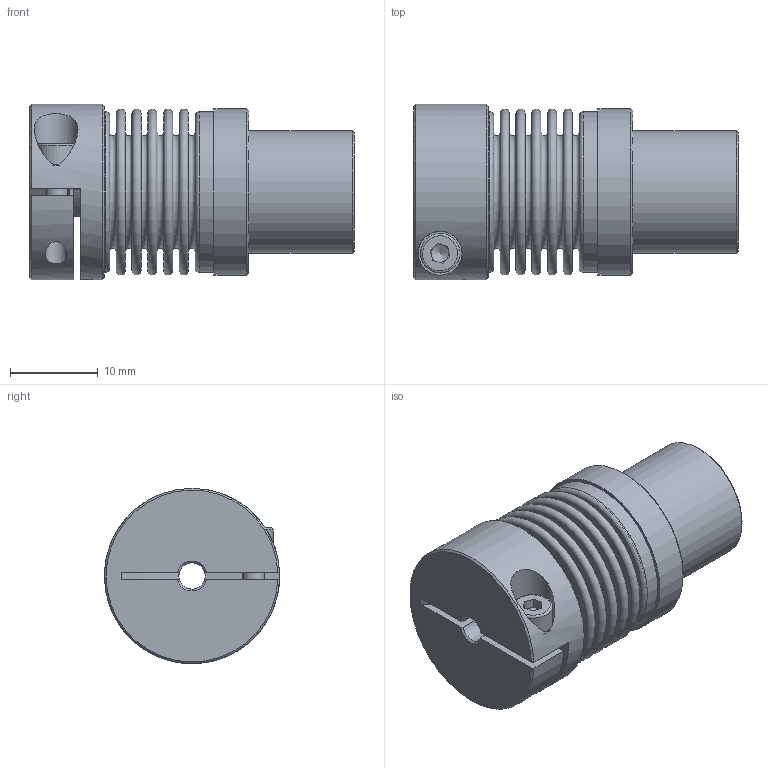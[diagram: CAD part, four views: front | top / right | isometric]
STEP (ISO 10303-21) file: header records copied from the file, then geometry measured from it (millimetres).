
FILE_DESCRIPTION( ( 'Unknown' ), '1' );
FILE_NAME( 'K:/Konstruktion/cad kunden/3D - Daten/KB3/KB3-15-25.stp', 'Unknown', ( 'Unknown' ), ( 'Unknown' ), 'PSStep 16.0.42', 'Unknown', ' ' );
FILE_SCHEMA( ( 'AUTOMOTIVE_DESIGN { 1 0 10303 214 1 1 1 1 }' ) );
Length unit declared in the file: millimetre
Products named in the file (5): Assem1; Socket Head Cap Screw_DIN_DIN 912 M2.5 x 8 --- 8N_1; KN15_Standard_1; BK15_Standard_0; SN15
Assembly tree (4 placements, depth 2):
  Assem1
    Socket Head Cap Screw_DIN_DIN 912 M2.5 x 8 --- 8N_1
    KN15_Standard_1
    BK15_Standard_0
    SN15
Bounding box: 37 x 20 x 20 mm (x, y, z)
Volume: 5928.8 mm3; surface area: 7992.8 mm2
Topology: 4 solids, 4 shells, 108 faces, 207 edges, 134 vertices
Faces by surface type: plane 54, torus 28, cylinder 17, cone 9
Full cylindrical faces by diameter (mm): 2.5 x2, 2.8 x1, 3 x1, 4.5 x2, 5 x1, 14 x1, 18 x3, 18.3 x2, 19 x1, 20 x1
Entity records: 3549 total; most frequent: CARTESIAN_POINT 521, DIRECTION 467, ORIENTED_EDGE 298, AXIS2_PLACEMENT_3D 214, EDGE_LOOP 194, FACE_OUTER_BOUND 151, EDGE_CURVE 149, VERTEX_POINT 136
